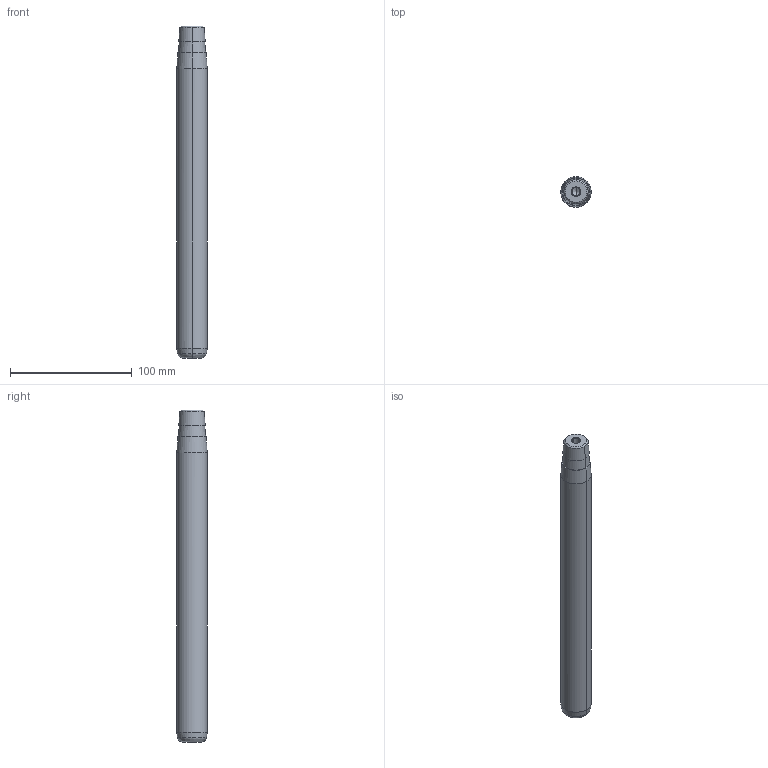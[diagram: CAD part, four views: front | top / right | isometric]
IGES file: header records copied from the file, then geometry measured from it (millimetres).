
Start section: START RECORD GO HERE.
Global section: file name: 722-25x250x273.igs; native system: DASSAULT SYSTEMES CATIA V5 R20 - www.3ds.com; preprocessor: CATIA Version 5 Release 20 ; author: Utente; organization: NB04-ASUS; date: 20210109.090154; units: millimetre
Bounding box: 25 x 25 x 273 mm (x, y, z)
Surface area: 22827.9 mm2 (no closed solid volume)
Topology: 0 solids, 0 shells, 32 faces, 192 edges, 188 vertices
Faces by surface type: revolution 30, plane 2
